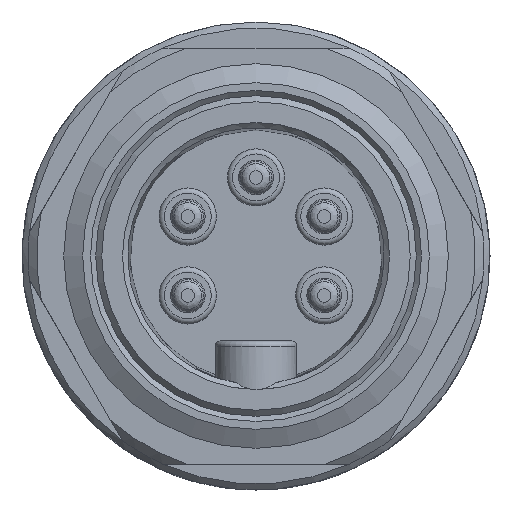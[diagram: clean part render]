
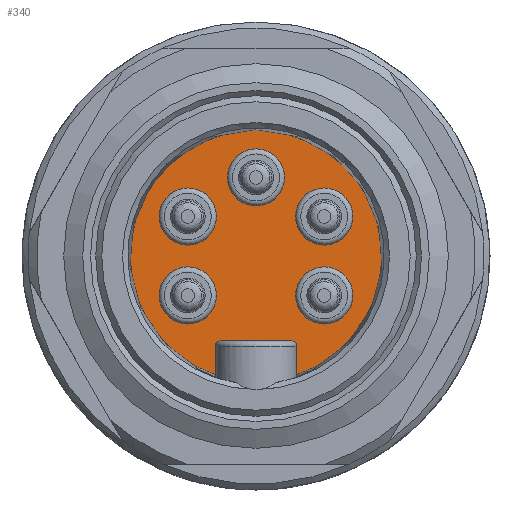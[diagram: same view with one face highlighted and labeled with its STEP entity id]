
A CAD part, left-side view. The second image highlights one B-rep face of the part: STEP entity #340.
In plain terms, the highlighted planar face has unit normal (-1, 0, 0).
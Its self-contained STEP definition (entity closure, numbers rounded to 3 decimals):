
#190=PLANE('',#1708);
#233=LINE('',#2455,#286);
#234=LINE('',#2460,#287);
#235=LINE('',#2464,#288);
#286=VECTOR('',#1944,1.);
#287=VECTOR('',#1947,1.);
#288=VECTOR('',#1950,1.);
#340=ADVANCED_FACE('',(#488,#489,#490,#491,#492,#493),#190,.F.);
#488=FACE_BOUND('',#624,.T.);
#489=FACE_BOUND('',#625,.T.);
#490=FACE_BOUND('',#626,.T.);
#491=FACE_BOUND('',#627,.T.);
#492=FACE_BOUND('',#628,.T.);
#493=FACE_BOUND('',#629,.T.);
#624=EDGE_LOOP('',(#817));
#625=EDGE_LOOP('',(#818));
#626=EDGE_LOOP('',(#819));
#627=EDGE_LOOP('',(#820));
#628=EDGE_LOOP('',(#821));
#629=EDGE_LOOP('',(#822,#823,#824,#825,#826,#827));
#817=ORIENTED_EDGE('',*,*,#1378,.F.);
#818=ORIENTED_EDGE('',*,*,#1379,.T.);
#819=ORIENTED_EDGE('',*,*,#1380,.T.);
#820=ORIENTED_EDGE('',*,*,#1381,.F.);
#821=ORIENTED_EDGE('',*,*,#1382,.F.);
#822=ORIENTED_EDGE('',*,*,#1383,.T.);
#823=ORIENTED_EDGE('',*,*,#1384,.T.);
#824=ORIENTED_EDGE('',*,*,#1385,.T.);
#825=ORIENTED_EDGE('',*,*,#1386,.T.);
#826=ORIENTED_EDGE('',*,*,#1387,.F.);
#827=ORIENTED_EDGE('',*,*,#1388,.T.);
#1225=VERTEX_POINT('',#2446);
#1226=VERTEX_POINT('',#2448);
#1227=VERTEX_POINT('',#2450);
#1228=VERTEX_POINT('',#2452);
#1229=VERTEX_POINT('',#2454);
#1230=VERTEX_POINT('',#2456);
#1231=VERTEX_POINT('',#2457);
#1232=VERTEX_POINT('',#2459);
#1233=VERTEX_POINT('',#2461);
#1234=VERTEX_POINT('',#2463);
#1235=VERTEX_POINT('',#2465);
#1378=EDGE_CURVE('',#1225,#1225,#1582,.T.);
#1379=EDGE_CURVE('',#1226,#1226,#1583,.T.);
#1380=EDGE_CURVE('',#1227,#1227,#1584,.T.);
#1381=EDGE_CURVE('',#1228,#1228,#1585,.T.);
#1382=EDGE_CURVE('',#1229,#1229,#1586,.T.);
#1383=EDGE_CURVE('',#1230,#1231,#233,.T.);
#1384=EDGE_CURVE('',#1231,#1232,#1587,.T.);
#1385=EDGE_CURVE('',#1232,#1233,#234,.T.);
#1386=EDGE_CURVE('',#1233,#1234,#1588,.T.);
#1387=EDGE_CURVE('',#1235,#1234,#235,.T.);
#1388=EDGE_CURVE('',#1235,#1230,#1589,.T.);
#1582=CIRCLE('',#1700,1.65);
#1583=CIRCLE('',#1701,1.65);
#1584=CIRCLE('',#1702,1.65);
#1585=CIRCLE('',#1703,1.65);
#1586=CIRCLE('',#1704,1.65);
#1587=CIRCLE('',#1705,0.3);
#1588=CIRCLE('',#1706,0.3);
#1589=CIRCLE('',#1707,7.25);
#1700=AXIS2_PLACEMENT_3D('',#2445,#1934,#1935);
#1701=AXIS2_PLACEMENT_3D('',#2447,#1936,#1937);
#1702=AXIS2_PLACEMENT_3D('',#2449,#1938,#1939);
#1703=AXIS2_PLACEMENT_3D('',#2451,#1940,#1941);
#1704=AXIS2_PLACEMENT_3D('',#2453,#1942,#1943);
#1705=AXIS2_PLACEMENT_3D('',#2458,#1945,#1946);
#1706=AXIS2_PLACEMENT_3D('',#2462,#1948,#1949);
#1707=AXIS2_PLACEMENT_3D('',#2466,#1951,#1952);
#1708=AXIS2_PLACEMENT_3D('',#2467,#1953,#1954);
#1934=DIRECTION('',(-1.,0.,0.));
#1935=DIRECTION('',(0.,0.,1.));
#1936=DIRECTION('',(1.,0.,0.));
#1937=DIRECTION('',(0.,0.,-1.));
#1938=DIRECTION('',(1.,0.,0.));
#1939=DIRECTION('',(0.,0.,-1.));
#1940=DIRECTION('',(-1.,0.,0.));
#1941=DIRECTION('',(0.,0.,1.));
#1942=DIRECTION('',(-1.,0.,0.));
#1943=DIRECTION('',(0.,0.,1.));
#1944=DIRECTION('',(0.,0.,1.));
#1945=DIRECTION('',(1.,0.,0.));
#1946=DIRECTION('',(0.,0.,-1.));
#1947=DIRECTION('',(0.,-1.,0.));
#1948=DIRECTION('',(1.,0.,0.));
#1949=DIRECTION('',(0.,0.,-1.));
#1950=DIRECTION('',(0.,0.,1.));
#1951=DIRECTION('',(-1.,0.,0.));
#1952=DIRECTION('',(0.,0.,1.));
#1953=DIRECTION('',(1.,0.,0.));
#1954=DIRECTION('',(0.,0.,-1.));
#2445=CARTESIAN_POINT('',(7.3,0.,4.535));
#2446=CARTESIAN_POINT('',(7.3,0.,6.185));
#2447=CARTESIAN_POINT('',(7.3,-3.935,-2.275));
#2448=CARTESIAN_POINT('',(7.3,-3.935,-3.925));
#2449=CARTESIAN_POINT('',(7.3,3.935,-2.275));
#2450=CARTESIAN_POINT('',(7.3,3.935,-3.925));
#2451=CARTESIAN_POINT('',(7.3,3.935,2.275));
#2452=CARTESIAN_POINT('',(7.3,3.935,3.925));
#2453=CARTESIAN_POINT('',(7.3,-3.935,2.275));
#2454=CARTESIAN_POINT('',(7.3,-3.935,3.925));
#2455=CARTESIAN_POINT('',(7.3,2.35,-7.017));
#2456=CARTESIAN_POINT('',(7.3,2.35,-6.859));
#2457=CARTESIAN_POINT('',(7.3,2.35,-5.2));
#2458=CARTESIAN_POINT('',(7.3,2.05,-5.2));
#2459=CARTESIAN_POINT('',(7.3,2.05,-4.9));
#2460=CARTESIAN_POINT('',(7.3,2.35,-4.9));
#2461=CARTESIAN_POINT('',(7.3,-2.05,-4.9));
#2462=CARTESIAN_POINT('',(7.3,-2.05,-5.2));
#2463=CARTESIAN_POINT('',(7.3,-2.35,-5.2));
#2464=CARTESIAN_POINT('',(7.3,-2.35,-7.017));
#2465=CARTESIAN_POINT('',(7.3,-2.35,-6.859));
#2466=CARTESIAN_POINT('',(7.3,0.,0.));
#2467=CARTESIAN_POINT('',(7.3,0.,0.));
